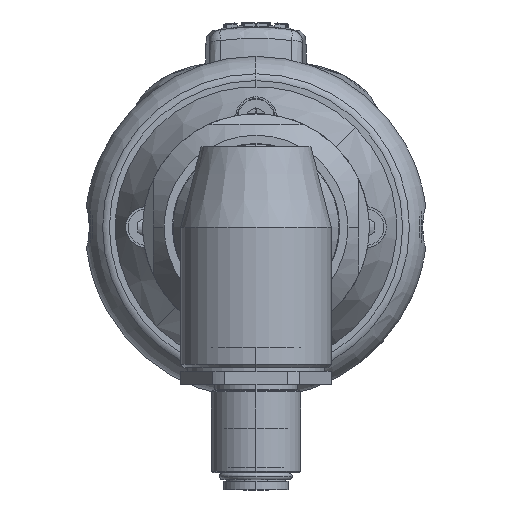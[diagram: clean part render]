
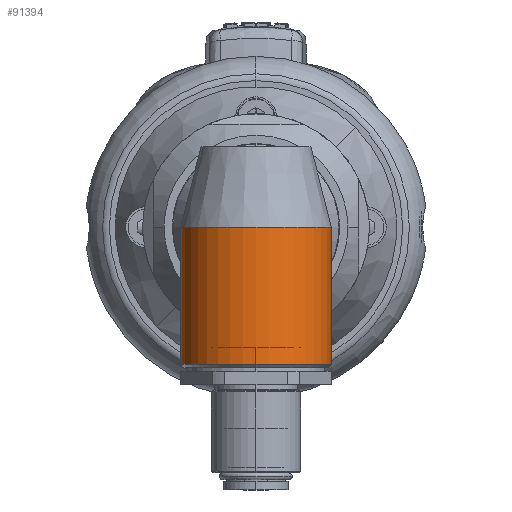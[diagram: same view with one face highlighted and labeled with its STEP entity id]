
A CAD part, front view. The second image highlights one B-rep face of the part: STEP entity #91394.
In plain terms, the highlighted cylindrical face has radius 11 mm (diameter 22 mm), a partial arc.
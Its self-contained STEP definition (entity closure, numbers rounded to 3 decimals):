
#763 = LINE ( 'NONE', #32251, #12823 ) ;
#2985 = EDGE_CURVE ( 'NONE', #86955, #22774, #73007, .T. ) ;
#3420 = CARTESIAN_POINT ( 'NONE',  ( 11., -80.2, -20. ) ) ;
#4344 = AXIS2_PLACEMENT_3D ( 'NONE', #29156, #60173, #99272 ) ;
#4725 = EDGE_CURVE ( 'NONE', #22774, #52052, #96952, .T. ) ;
#5943 = VECTOR ( 'NONE', #34384, 1000. ) ;
#8857 = CARTESIAN_POINT ( 'NONE',  ( -11., -80.2, -20. ) ) ;
#8997 = ORIENTED_EDGE ( 'NONE', *, *, #2985, .T. ) ;
#12823 = VECTOR ( 'NONE', #16525, 1000. ) ;
#14576 = ORIENTED_EDGE ( 'NONE', *, *, #65285, .F. ) ;
#16525 = DIRECTION ( 'NONE',  ( 0., 0., 1. ) ) ;
#17454 = EDGE_CURVE ( 'NONE', #83569, #86955, #31859, .T. ) ;
#22774 = VERTEX_POINT ( 'NONE', #29947 ) ;
#27733 = AXIS2_PLACEMENT_3D ( 'NONE', #76556, #68937, #85159 ) ;
#29156 = CARTESIAN_POINT ( 'NONE',  ( 0., -80.2, -20. ) ) ;
#29947 = CARTESIAN_POINT ( 'NONE',  ( 11., -80.2, 0. ) ) ;
#31859 = CIRCLE ( 'NONE', #4344, 11. ) ;
#32251 = CARTESIAN_POINT ( 'NONE',  ( -11., -80.2, -20. ) ) ;
#34384 = DIRECTION ( 'NONE',  ( 0., 0., 1. ) ) ;
#38725 = DIRECTION ( 'NONE',  ( 1., 0., 0. ) ) ;
#39709 = CARTESIAN_POINT ( 'NONE',  ( 0., -80.2, 0. ) ) ;
#43668 = CARTESIAN_POINT ( 'NONE',  ( 11., -80.2, -20. ) ) ;
#45582 = CYLINDRICAL_SURFACE ( 'NONE', #27733, 11. ) ;
#51587 = AXIS2_PLACEMENT_3D ( 'NONE', #39709, #77301, #38725 ) ;
#52052 = VERTEX_POINT ( 'NONE', #70797 ) ;
#56508 = EDGE_LOOP ( 'NONE', ( #8997, #58448, #14576, #87293 ) ) ;
#58448 = ORIENTED_EDGE ( 'NONE', *, *, #4725, .T. ) ;
#60173 = DIRECTION ( 'NONE',  ( 0., 0., 1. ) ) ;
#65285 = EDGE_CURVE ( 'NONE', #83569, #52052, #763, .T. ) ;
#68937 = DIRECTION ( 'NONE',  ( 0., 0., -1. ) ) ;
#70797 = CARTESIAN_POINT ( 'NONE',  ( -11., -80.2, 0. ) ) ;
#73007 = LINE ( 'NONE', #3420, #5943 ) ;
#76556 = CARTESIAN_POINT ( 'NONE',  ( 0., -80.2, -20.5 ) ) ;
#77301 = DIRECTION ( 'NONE',  ( 0., 0., -1. ) ) ;
#83569 = VERTEX_POINT ( 'NONE', #8857 ) ;
#84177 = FACE_OUTER_BOUND ( 'NONE', #56508, .T. ) ;
#85159 = DIRECTION ( 'NONE',  ( -1., 0., 0. ) ) ;
#86955 = VERTEX_POINT ( 'NONE', #43668 ) ;
#87293 = ORIENTED_EDGE ( 'NONE', *, *, #17454, .T. ) ;
#91394 = ADVANCED_FACE ( 'NONE', ( #84177 ), #45582, .T. ) ;
#96952 = CIRCLE ( 'NONE', #51587, 11. ) ;
#99272 = DIRECTION ( 'NONE',  ( -1., 0., 0. ) ) ;
